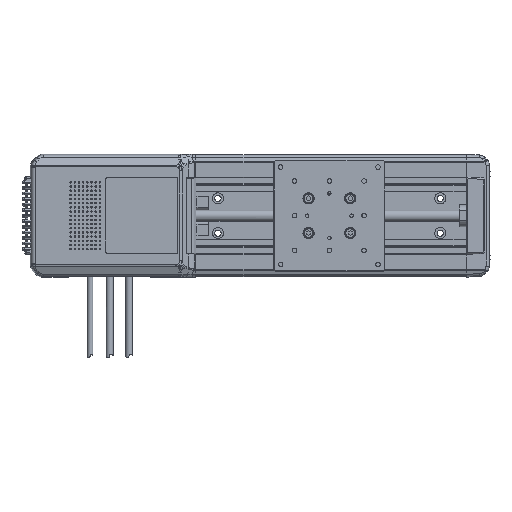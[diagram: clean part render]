
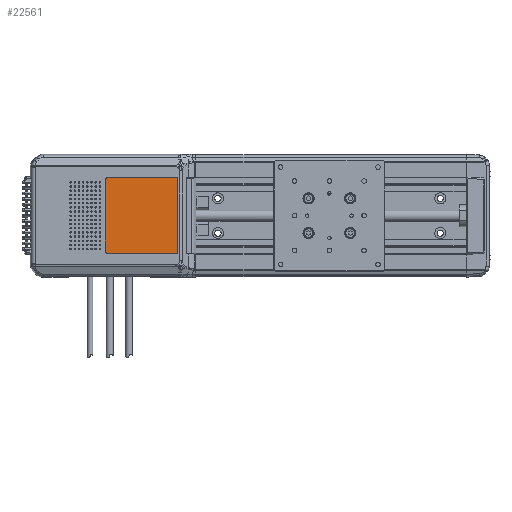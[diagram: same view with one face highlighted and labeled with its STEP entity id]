
A CAD part, top view. The second image highlights one B-rep face of the part: STEP entity #22561.
In plain terms, the highlighted planar face has unit normal (0, 0, 1).
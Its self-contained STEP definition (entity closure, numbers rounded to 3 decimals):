
#22407=CARTESIAN_POINT('',(-109.,-27.5,31.8));
#22408=VERTEX_POINT('',#22407);
#22409=CARTESIAN_POINT('',(-109.,27.5,31.8));
#22410=VERTEX_POINT('',#22409);
#22411=CARTESIAN_POINT('',(-109.,-27.5,31.8));
#22412=DIRECTION('',(0.0,1.0,0.0));
#22413=VECTOR('',#22412,55.0);
#22414=LINE('',#22411,#22413);
#22415=EDGE_CURVE('',#22408,#22410,#22414,.T.);
#22438=CARTESIAN_POINT('',(-159.,27.5,31.8));
#22439=VERTEX_POINT('',#22438);
#22440=CARTESIAN_POINT('',(-109.,27.5,31.8));
#22441=DIRECTION('',(-1.0,0.0,0.0));
#22442=VECTOR('',#22441,50.);
#22443=LINE('',#22440,#22442);
#22444=EDGE_CURVE('',#22410,#22439,#22443,.T.);
#22462=CARTESIAN_POINT('',(-161.,25.5,31.8));
#22463=VERTEX_POINT('',#22462);
#22464=CARTESIAN_POINT('',(-159.,25.5,31.8));
#22465=DIRECTION('',(0.0,0.0,1.0));
#22466=DIRECTION('',(0.0,1.0,0.0));
#22467=AXIS2_PLACEMENT_3D('',#22464,#22465,#22466);
#22468=CIRCLE('',#22467,2.);
#22469=EDGE_CURVE('',#22439,#22463,#22468,.T.);
#22487=CARTESIAN_POINT('',(-161.,-25.5,31.8));
#22488=VERTEX_POINT('',#22487);
#22489=CARTESIAN_POINT('',(-161.,25.5,31.8));
#22490=DIRECTION('',(0.0,-1.0,0.0));
#22491=VECTOR('',#22490,51.0);
#22492=LINE('',#22489,#22491);
#22493=EDGE_CURVE('',#22463,#22488,#22492,.T.);
#22511=CARTESIAN_POINT('',(-159.,-27.5,31.8));
#22512=VERTEX_POINT('',#22511);
#22513=CARTESIAN_POINT('',(-159.,-25.5,31.8));
#22514=DIRECTION('',(0.0,0.0,1.0));
#22515=DIRECTION('',(-1.0,0.0,0.0));
#22516=AXIS2_PLACEMENT_3D('',#22513,#22514,#22515);
#22517=CIRCLE('',#22516,2.);
#22518=EDGE_CURVE('',#22488,#22512,#22517,.T.);
#22536=CARTESIAN_POINT('',(-159.,-27.5,31.8));
#22537=DIRECTION('',(1.0,0.0,0.0));
#22538=VECTOR('',#22537,50.);
#22539=LINE('',#22536,#22538);
#22540=EDGE_CURVE('',#22512,#22408,#22539,.T.);
#22548=CARTESIAN_POINT('',(-134.786,0.,31.8));
#22549=DIRECTION('',(0.0,0.0,1.0));
#22550=DIRECTION('',(1.0,0.0,0.0));
#22551=AXIS2_PLACEMENT_3D('',#22548,#22549,#22550);
#22552=PLANE('',#22551);
#22553=ORIENTED_EDGE('',*,*,#22415,.T.);
#22554=ORIENTED_EDGE('',*,*,#22444,.T.);
#22555=ORIENTED_EDGE('',*,*,#22469,.T.);
#22556=ORIENTED_EDGE('',*,*,#22493,.T.);
#22557=ORIENTED_EDGE('',*,*,#22518,.T.);
#22558=ORIENTED_EDGE('',*,*,#22540,.T.);
#22559=EDGE_LOOP('',(#22553,#22554,#22555,#22556,#22557,#22558));
#22560=FACE_OUTER_BOUND('',#22559,.T.);
#22561=ADVANCED_FACE('',(#22560),#22552,.T.);
